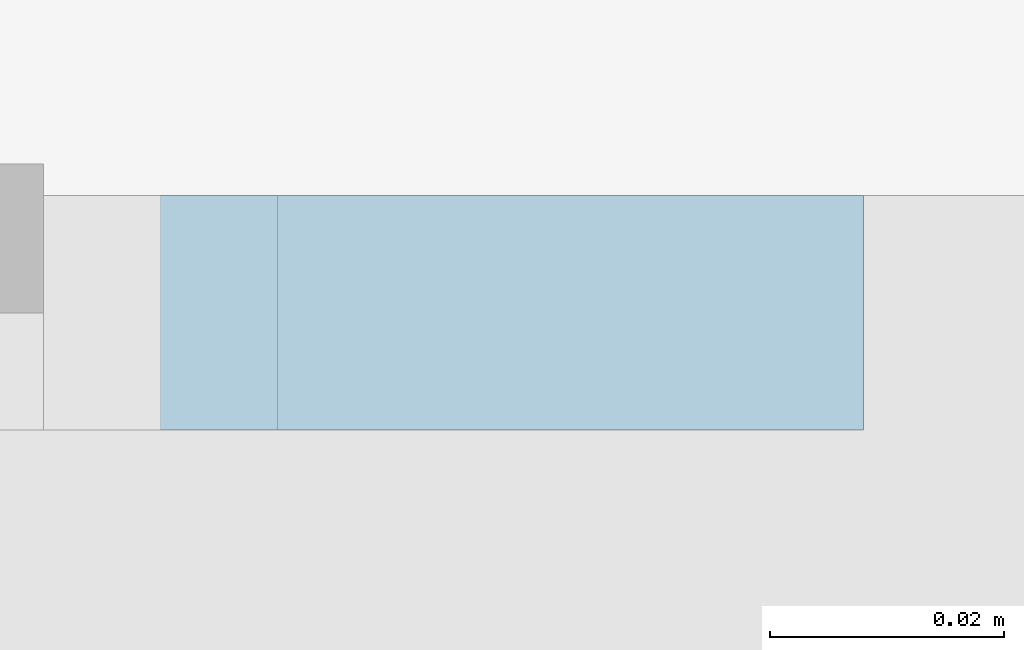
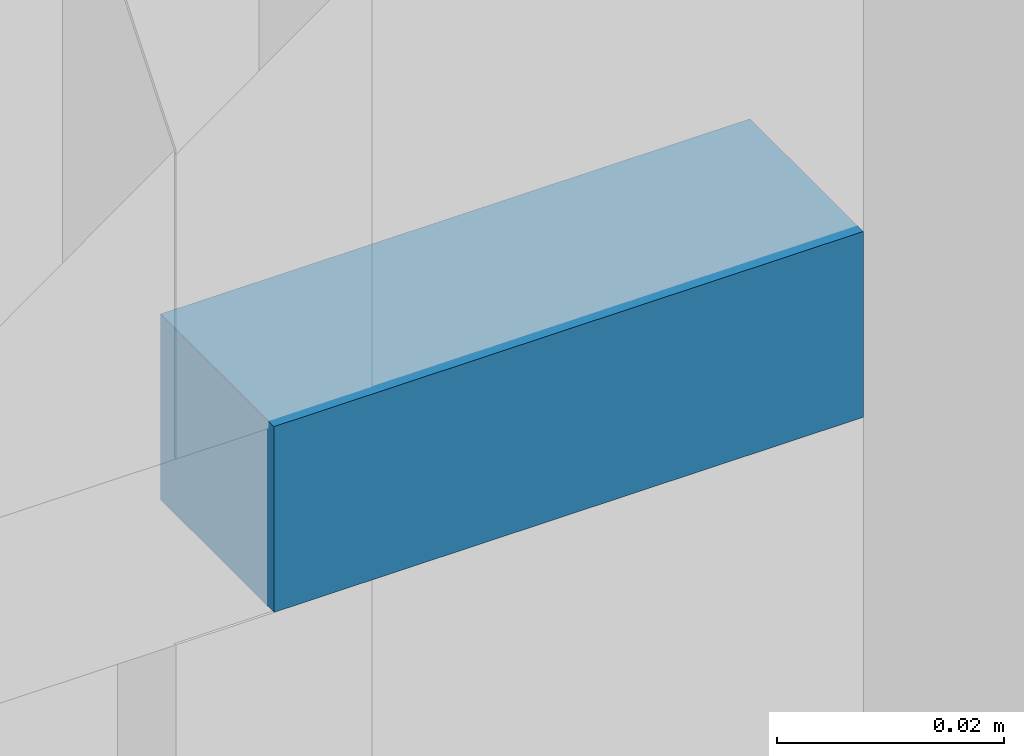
# One storey, part 11 of 66: 1 member, 1 element without a shape of its own.
"""IFC2X3 building model written with IfcOpenShell, lengths in millimetres."""

from ifc_helpers import new_model, entity, si_unit, converted_unit, derived_unit, direction, frame, origin, origin_2d_with_axis, place, context, subcontext, project, spatial, rectangle, extrude, source, transform, mapped, material, type_object, type_shapes, element, aggregate, save


model = new_model("IFC2X3")

# Units and contexts
model_context = context("Model", 3, precision=0.01, world=origin(), true_north=direction((6.12303176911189e-17, 1.0)))
body_context = subcontext(model_context, "Body", "Model", "MODEL_VIEW")
ifc_project = project(units=[si_unit("LENGTHUNIT", "METRE", prefix="MILLI"), si_unit("AREAUNIT", "SQUARE_METRE"), si_unit("VOLUMEUNIT", "CUBIC_METRE"), converted_unit("PLANEANGLEUNIT", "DEGREE", entity("IfcRatioMeasure", 0.0174532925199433), si_unit("PLANEANGLEUNIT", "RADIAN"), dimensions=[0, 0, 0, 0, 0, 0, 0]), si_unit("MASSUNIT", "GRAM", prefix="KILO"), derived_unit("MASSDENSITYUNIT", [(si_unit("MASSUNIT", "GRAM", prefix="KILO"), 1), (si_unit("LENGTHUNIT", "METRE"), -3)]), si_unit("TIMEUNIT", "SECOND"), si_unit("FREQUENCYUNIT", "HERTZ"), si_unit("THERMODYNAMICTEMPERATUREUNIT", "DEGREE_CELSIUS"), derived_unit("THERMALTRANSMITTANCEUNIT", [(si_unit("MASSUNIT", "GRAM", prefix="KILO"), 1), (si_unit("THERMODYNAMICTEMPERATUREUNIT", "KELVIN"), -1), (si_unit("TIMEUNIT", "SECOND"), -3)]), derived_unit("VOLUMETRICFLOWRATEUNIT", [(si_unit("LENGTHUNIT", "METRE"), 3), (si_unit("TIMEUNIT", "SECOND"), -1)]), si_unit("ELECTRICCURRENTUNIT", "AMPERE"), si_unit("ELECTRICVOLTAGEUNIT", "VOLT"), si_unit("POWERUNIT", "WATT"), si_unit("FORCEUNIT", "NEWTON", prefix="KILO"), si_unit("ILLUMINANCEUNIT", "LUX"), si_unit("LUMINOUSFLUXUNIT", "LUMEN"), si_unit("LUMINOUSINTENSITYUNIT", "CANDELA"), derived_unit("USERDEFINED", [(si_unit("MASSUNIT", "GRAM", prefix="KILO"), -1), (si_unit("LENGTHUNIT", "METRE"), -2), (si_unit("TIMEUNIT", "SECOND"), 3), (si_unit("LUMINOUSFLUXUNIT", "LUMEN"), 1)]), derived_unit("LINEARVELOCITYUNIT", [(si_unit("LENGTHUNIT", "METRE"), 1), (si_unit("TIMEUNIT", "SECOND"), -1)]), si_unit("PRESSUREUNIT", "PASCAL"), derived_unit("USERDEFINED", [(si_unit("LENGTHUNIT", "METRE"), -2), (si_unit("MASSUNIT", "GRAM", prefix="KILO"), 1), (si_unit("TIMEUNIT", "SECOND"), -2)])], contexts=[model_context])

# Site, building, storey
site_placement = place(None, frame((-151.875543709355, 2715.0, 0.0)))
site = spatial("IfcSite", under=ifc_project, at=site_placement, Name="Surface", CompositionType="ELEMENT")
building_placement = place(site_placement, origin())
building = spatial("IfcBuilding", under=site, at=building_placement, CompositionType="ELEMENT")
storey_placement = place(building_placement, frame((0.0, 0.0, 3350.0)))
storey = spatial("IfcBuildingStorey", under=building, at=storey_placement, Name="2 korrus", CompositionType="ELEMENT", Elevation=3350.00000000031)

# Curtain wall, member
curtain_wall_type = type_object("IfcCurtainWallType", Name="Curtain Wall:Klaassein KLS-08", PredefinedType="NOTDEFINED")
curtain_wall_placement = place(storey_placement, frame((0.0, 0.0, -3350.0)))
curtain_wall = element("IfcCurtainWall", 1, at=curtain_wall_placement, inside=storey, type_object=curtain_wall_type, Name="Curtain Wall:Klaassein KLS-08", ObjectType="Curtain Wall:Klaassein KLS-08")
ifc_material = material(Name="__Uks_hele tamm")
member_type = type_object("IfcMemberType", Name="20 x 20mm", PredefinedType="MEMBER")
shared_shape = source(origin(), body_context, "Body", "SweptSolid", [
    extrude(rectangle(XDim=20.0, YDim=20.0, at=origin_2d_with_axis()), frame((0.0, 0.0, -60.0), z_axis=(0.0, 0.0, 1.0), x_axis=(0.0, -1.0, 0.0)), (0.0, 0.0, 1.0), 60.0000000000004),
])
type_shapes(member_type, [shared_shape])
member_placement = place(storey_placement, frame((9499.56472640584, 4355.0449339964, 2090.0), z_axis=(1.0, 0.0, 0.0), x_axis=(0.0, 0.0, 1.0)))
member = element("IfcMember", 2, at=member_placement, type_object=member_type, material=ifc_material, Name="Rectangular Mullion:20 x 20mm", ObjectType="20 x 20mm", context=body_context, shape_type="MappedRepresentation", body=[
    mapped(shared_shape, transform((0.0, 0.0, 0.0), scale=1.0)),
])
aggregate(curtain_wall, [member])

save(model, "model.ifc")
